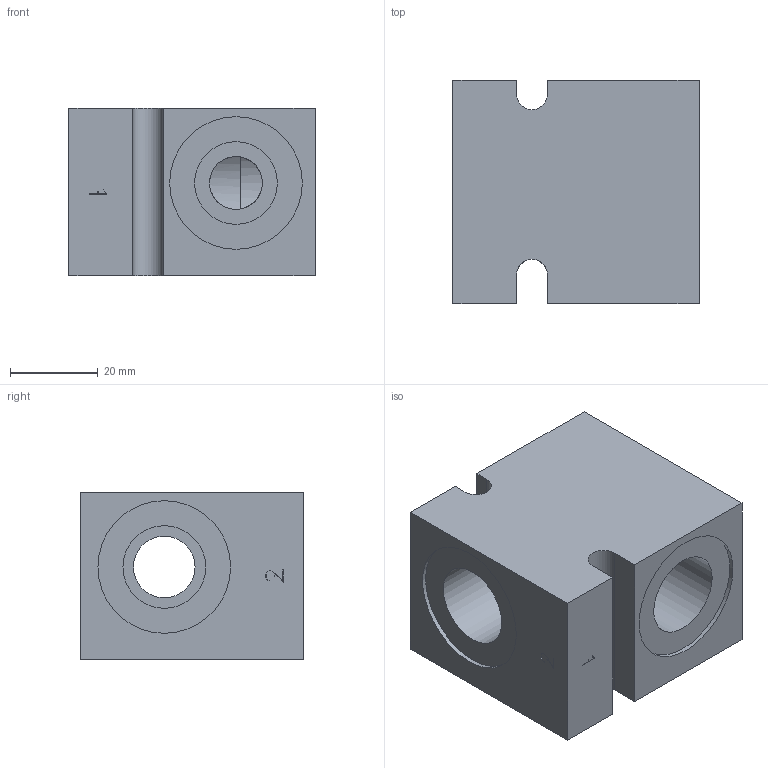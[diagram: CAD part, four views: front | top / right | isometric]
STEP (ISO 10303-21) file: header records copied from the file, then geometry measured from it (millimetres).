
FILE_DESCRIPTION( ( 'Unknown' ), '1' );
FILE_NAME( 'G:/Graphic Design/Graphic Design 2/Data Sheets/Delta Bodies/3_STP/B-DDEC2.stp', 'Unknown', ( 'Unknown' ), ( 'Unknown' ), 'PSStep 16.0.42', 'Unknown', ' ' );
FILE_SCHEMA( ( 'AUTOMOTIVE_DESIGN { 1 0 10303 214 1 1 1 1 }' ) );
Length unit declared in the file: millimetre
Products named in the file (1): 1
Bounding box: 56 x 50.8 x 38.1 mm (x, y, z)
Surface area: 18681 mm2 (no closed solid volume)
Topology: 0 solids, 80 shells, 80 faces, 384 edges, 364 vertices
Faces by surface type: plane 58, cylinder 17, cone 5
Full cylindrical faces by diameter (mm): 0.2 x2, 12 x1, 14 x1, 15.9 x1, 17.043 x1, 18.8 x4, 20.262 x2, 30.17 x2, 30.175 x1
Entity records: 4284 total; most frequent: CARTESIAN_POINT 1113, DIRECTION 428, ORIENTED_EDGE 354, EDGE_CURVE 354, VERTEX_POINT 354, B_SPLINE_CURVE_WITH_KNOTS 152, AXIS2_PLACEMENT_3D 145, LINE 138
